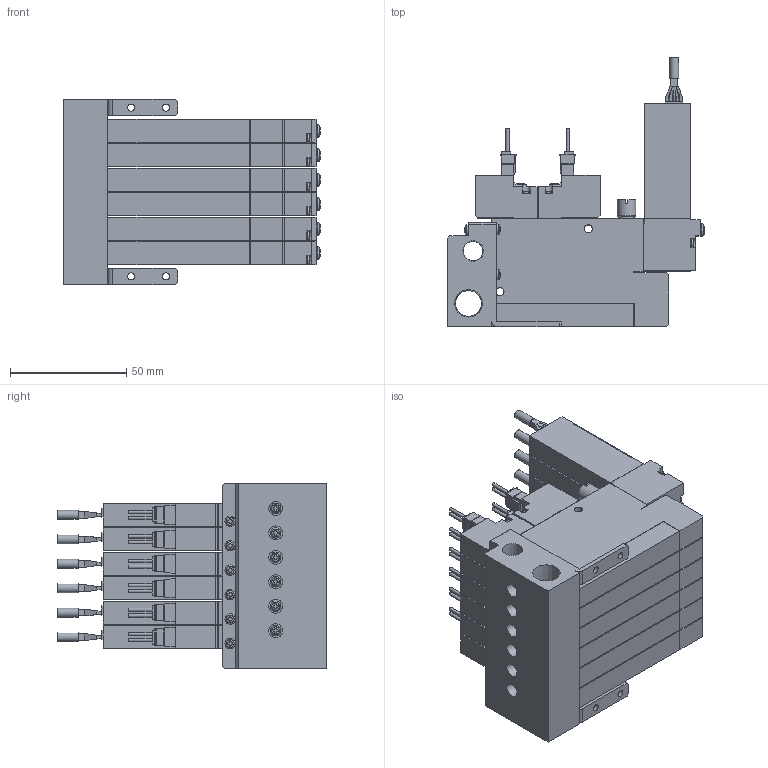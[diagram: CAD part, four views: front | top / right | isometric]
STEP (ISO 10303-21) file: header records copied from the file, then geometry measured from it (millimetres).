
FILE_DESCRIPTION(('STEP AP203'),'1');
FILE_NAME('V9C5SC606_3D.stp','2024-09-04T23:10:20',(' '),(' '),'Spatial InterOp 3D',' ',' ');
FILE_SCHEMA(('CONFIG_CONTROL_DESIGN'));
Length unit declared in the file: millimetre
Products named in the file (5): BSC1M※※V9C5SC606; Solenoid valve S; Pressure Sensor V9; Unit-C; BaseMC60R
Assembly tree (19 placements, depth 2):
  BSC1M※※V9C5SC606
    Solenoid valve S  x6
    Pressure Sensor V9  x6
    Unit-C  x6
    BaseMC60R
Bounding box: 110.35 x 115.8 x 79.5 mm (x, y, z)
Volume: 394513.6 mm3; surface area: 135946 mm2
Topology: 19 solids, 19 shells, 2589 faces, 6999 edges, 4614 vertices
Faces by surface type: plane 2003, cylinder 472, cone 46, sphere 34, torus 34
Full cylindrical faces by diameter (mm): 1.4 x24, 2.5 x12, 3 x28, 3.5 x48, 3.8 x6, 4 x6, 4.134 x12, 4.5 x16, 5.5 x12, 6 x6, 7 x12, 8 x6, 8.422 x1, 11.233 x1
Entity records: 21649 total; most frequent: CARTESIAN_POINT 4947, DIRECTION 3357, ORIENTED_EDGE 3222, EDGE_CURVE 1611, AXIS2_PLACEMENT_3D 1136, VERTEX_POINT 1136, LINE 1085, VECTOR 1085
